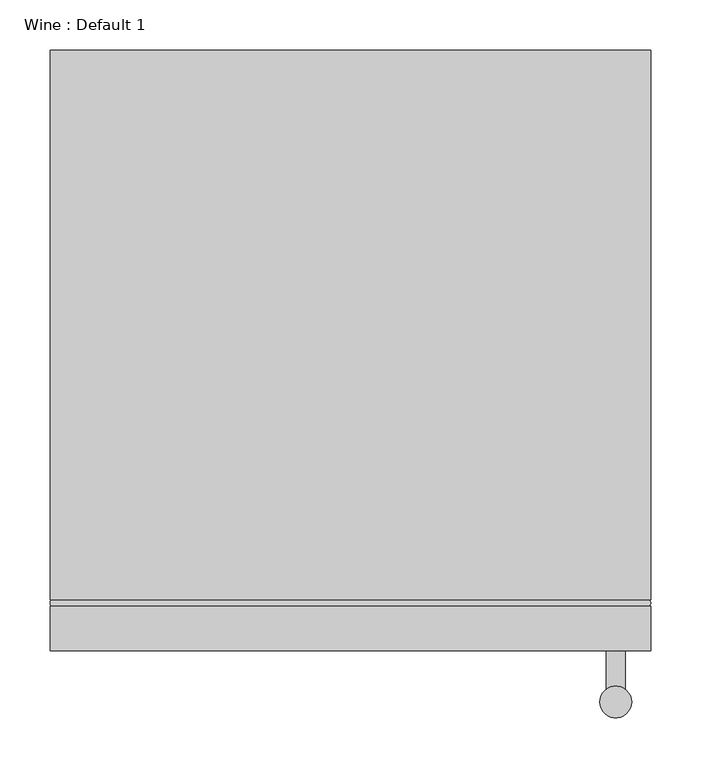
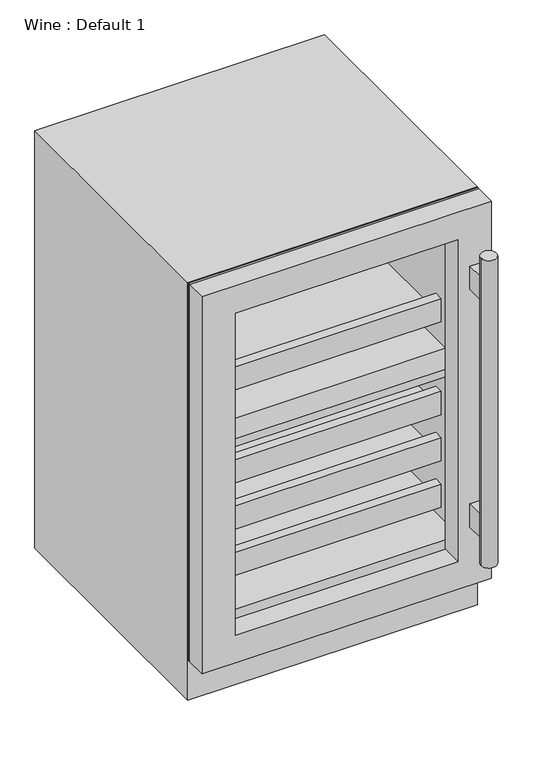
"""IFC4 building model written with IfcOpenShell, lengths in millimetres: proxy geometry, Wine : Default 1."""

import ifcopenshell
import ifcopenshell.guid

model = None  # the IFC model being written
_history = None  # IfcOwnerHistory: only IFC2X3 demands one
_inside = {}  # id of a spatial element -> (the spatial element, [elements in it])
_under = {}  # id of a project, library or spatial element -> (it, [spatial elements below it])
_declared = {}  # id of a project -> (the project, [libraries it declares])
_typed = {}  # id of a type object -> (the type object, [elements of that type])
_made_of = {}  # id of a material, layer set ... -> (it, [elements and type objects made of it])


def new_model(schema):
    """Start an empty IFC model of exactly this schema.

    Asked for "IFC4X3", IfcOpenShell would pick the latest addendum, in which some entities
    have other attributes; the version numbers below select the first issue.
    IFC2X3 requires an IfcOwnerHistory on every rooted entity: one is made here for all.
    """
    global model, _history
    if schema == "IFC4X3":
        model = ifcopenshell.file(schema_version=(4, 3, 0, 0))
    else:
        model = ifcopenshell.file(schema=schema)
    _inside.clear()
    _under.clear()
    _declared.clear()
    _typed.clear()
    _made_of.clear()
    _history = None
    if model.schema == "IFC2X3":
        org = make("IfcOrganization", Name="unknown")
        user = make(
            "IfcPersonAndOrganization",
            ThePerson=make("IfcPerson", FamilyName="unknown"),
            TheOrganization=org,
        )
        app = make(
            "IfcApplication",
            ApplicationDeveloper=org,
            Version="unknown",
            ApplicationFullName="unknown",
            ApplicationIdentifier="unknown",
        )
        _history = make(
            "IfcOwnerHistory",
            OwningUser=user,
            OwningApplication=app,
            ChangeAction="ADDED",
            CreationDate=0,
        )
    return model


def make(cls, **values):
    """One entity of the class cls with the attributes given. An attribute that is None is left unset."""
    return model.create_entity(
        cls, **{name: value for name, value in values.items() if value is not None}
    )


def rooted(cls, **values):
    """An entity with a GlobalId (a new one), such as an element, a storey or a relation."""
    return make(cls, GlobalId=ifcopenshell.guid.new(), OwnerHistory=_history, **values)


def si_unit(unit_type, name, prefix=None):
    """IfcSIUnit, for example si_unit("LENGTHUNIT", "METRE", prefix="MILLI")."""
    return make("IfcSIUnit", UnitType=unit_type, Prefix=prefix, Name=name)


def assignment(units):
    """IfcUnitAssignment: the units of a project."""
    return None if units is None else make("IfcUnitAssignment", Units=units)


def point(xyz):
    """IfcCartesianPoint."""
    return None if xyz is None else make("IfcCartesianPoint", Coordinates=xyz)


def direction(xyz):
    """IfcDirection."""
    return None if xyz is None else make("IfcDirection", DirectionRatios=xyz)


def frame(location, z_axis=None, x_axis=None):
    """IfcAxis2Placement3D, a coordinate frame: its origin and axes. An axis left out is left unset."""
    return make(
        "IfcAxis2Placement3D",
        Location=point(location),
        Axis=direction(z_axis),
        RefDirection=direction(x_axis),
    )


def origin():
    """The frame at (0, 0, 0) with its axes left unset."""
    return frame((0.0, 0.0, 0.0))


def place(relative_to, where):
    """IfcLocalPlacement: puts the frame where relative to a parent placement (None: the world)."""
    return make(
        "IfcLocalPlacement", PlacementRelTo=relative_to, RelativePlacement=where
    )


def context(
    kind, dimensions, precision=None, world=None, true_north=None, identifier=None
):
    """IfcGeometricRepresentationContext, for example the 3D "Model" context."""
    return make(
        "IfcGeometricRepresentationContext",
        ContextIdentifier=identifier,
        ContextType=kind,
        CoordinateSpaceDimension=dimensions,
        Precision=precision,
        WorldCoordinateSystem=world,
        TrueNorth=true_north,
    )


def project(units=None, contexts=None):
    """IfcProject with its units and contexts."""
    return rooted(
        "IfcProject",
        Name="project",
        RepresentationContexts=contexts,
        UnitsInContext=assignment(units),
    )


def spatial(cls, under=None, at=None, **own):
    """A site, building, storey or space (cls), placed at a placement, below another one or the project."""
    s = rooted(cls, ObjectPlacement=at, **own)
    if under is not None:
        _under.setdefault(under.id(), (under, []))[1].append(s)
    return s


def polyline(points):
    """IfcPolyline through the points."""
    return make("IfcPolyline", Points=[point(p) for p in points])


def circle_curve(where, radius):
    """IfcCircle in the frame where."""
    return make("IfcCircle", Position=where, Radius=radius)


def ellipse_curve(where, semi_axis1, semi_axis2):
    """IfcEllipse in the frame where."""
    return make(
        "IfcEllipse", Position=where, SemiAxis1=semi_axis1, SemiAxis2=semi_axis2
    )


def outline(outer, holes=None, kind="AREA"):
    """IfcArbitraryClosedProfileDef: a profile drawn as a closed curve; with holes, ...WithVoids."""
    if holes is None:
        return make("IfcArbitraryClosedProfileDef", ProfileType=kind, OuterCurve=outer)
    return make(
        "IfcArbitraryProfileDefWithVoids",
        ProfileType=kind,
        OuterCurve=outer,
        InnerCurves=holes,
    )


def extrude(swept, where, along, depth):
    """IfcExtrudedAreaSolid: the profile swept, set in the frame where, extruded along a direction by depth."""
    return make(
        "IfcExtrudedAreaSolid",
        SweptArea=swept,
        Position=where,
        ExtrudedDirection=direction(along),
        Depth=depth,
    )


def faces_of(points, faces, orient=None, outer=None):
    """IfcFace entities. A face is a list of loops; a loop is a list of indices into points, from 0.

    orient and outer hold one flag for each loop. By default every Orientation is true, the
    first loop of a face is its IfcFaceOuterBound and the others are IfcFaceBound.
    """
    made = []
    for i, loops in enumerate(faces):
        bounds = []
        for j, loop in enumerate(loops):
            is_outer = j == 0 if outer is None else outer[i][j]
            bounds.append(
                make(
                    "IfcFaceOuterBound" if is_outer else "IfcFaceBound",
                    Bound=make("IfcPolyLoop", Polygon=[points[k] for k in loop]),
                    Orientation=True if orient is None else orient[i][j],
                )
            )
        made.append(make("IfcFace", Bounds=bounds))
    return made


def faceted_brep(points, faces, orient=None, outer=None, voids=None):
    """IfcFacetedBrep: a solid bounded by flat faces; with voids (closed shells), ...WithVoids."""
    shared = [point(p) for p in points]
    hull = make("IfcClosedShell", CfsFaces=faces_of(shared, faces, orient, outer))
    if voids is None:
        return make("IfcFacetedBrep", Outer=hull)
    return make(
        "IfcFacetedBrepWithVoids",
        Outer=hull,
        Voids=[
            make(cls, CfsFaces=faces_of(shared, fs, o, b)) for cls, fs, o, b in voids
        ],
    )


def shape(context_of_items, identifier, shape_type, items):
    """IfcShapeRepresentation: the items that make up one representation, for example the "Body"."""
    return make(
        "IfcShapeRepresentation",
        ContextOfItems=context_of_items,
        RepresentationIdentifier=identifier,
        RepresentationType=shape_type,
        Items=items,
    )


def source(mapping_origin, context_of_items, identifier, shape_type, items):
    """IfcRepresentationMap: a shape defined once, which mapped items show again and again."""
    return make(
        "IfcRepresentationMap",
        MappingOrigin=mapping_origin,
        MappedRepresentation=shape(context_of_items, identifier, shape_type, items),
    )


def transform(
    local_origin,
    x_axis=None,
    y_axis=None,
    z_axis=None,
    scale=None,
    scale2=None,
    scale3=None,
    uniform=True,
):
    """IfcCartesianTransformationOperator3D, or its non-uniform kind. x_axis, y_axis, z_axis: its Axis1, 2, 3."""
    if uniform:
        return make(
            "IfcCartesianTransformationOperator3D",
            Axis1=direction(x_axis),
            Axis2=direction(y_axis),
            LocalOrigin=point(local_origin),
            Scale=scale,
            Axis3=direction(z_axis),
        )
    return make(
        "IfcCartesianTransformationOperator3DnonUniform",
        Axis1=direction(x_axis),
        Axis2=direction(y_axis),
        LocalOrigin=point(local_origin),
        Scale=scale,
        Axis3=direction(z_axis),
        Scale2=scale2,
        Scale3=scale3,
    )


def mapped(mapping_source, mapping_target):
    """IfcMappedItem: shows the shape of a source again, moved by a transform."""
    return make(
        "IfcMappedItem", MappingSource=mapping_source, MappingTarget=mapping_target
    )


def made_of(thing, what):
    """Note that an element or type object is made of a material, layer set ...; save() writes the relation."""
    if what is not None:
        _made_of.setdefault(what.id(), (what, []))[1].append(thing)
    return thing


def element(
    cls,
    number,
    at=None,
    inside=None,
    cuts=None,
    type_object=None,
    material=None,
    context=None,
    identifier="Body",
    shape_type=None,
    held_by="IfcProductDefinitionShape",
    body=None,
    shapes=None,
    **own,
):
    """One element of the class cls, such as IfcWall. Its Tag is "e" and its number.

    at: its placement. inside: the storey or other place that contains it. cuts: it is an
    opening in that element (IfcRelVoidsElement). A single representation is given by context,
    identifier, shape_type and body (its items); several are given by shapes. held_by: the class
    of the entity that holds the representations. save() writes the other relations.
    """
    e = rooted(cls, Tag="e%d" % number, ObjectPlacement=at, **own)
    if body is not None:
        shapes = [shape(context, identifier, shape_type, body)]
    if shapes is not None:
        e.Representation = make(held_by, Representations=shapes)
    if inside is not None:
        _inside.setdefault(inside.id(), (inside, []))[1].append(e)
    if cuts is not None:
        rooted(
            "IfcRelVoidsElement", RelatingBuildingElement=cuts, RelatedOpeningElement=e
        )
    if type_object is not None:
        _typed.setdefault(type_object.id(), (type_object, []))[1].append(e)
    return made_of(e, material)


def aggregate(whole, parts):
    """IfcRelAggregates: a whole, such as a stair, and the parts it consists of."""
    return rooted("IfcRelAggregates", RelatingObject=whole, RelatedObjects=parts)


def save(model, path):
    """Write the relations noted so far, then the file.

    IfcRelAggregates (storeys below a building ...), IfcRelContainedInSpatialStructure (elements
    in a storey), IfcRelDefinesByType, IfcRelAssociatesMaterial and IfcRelDeclares: one each for
    every whole, place, type object, material and project.
    """
    for whole, parts in _under.values():
        aggregate(whole, parts)
    for where, things in _inside.values():
        rooted(
            "IfcRelContainedInSpatialStructure",
            RelatedElements=things,
            RelatingStructure=where,
        )
    for kind, things in _typed.values():
        rooted("IfcRelDefinesByType", RelatedObjects=things, RelatingType=kind)
    for what, things in _made_of.values():
        rooted("IfcRelAssociatesMaterial", RelatedObjects=things, RelatingMaterial=what)
    for by, libraries in _declared.values():
        rooted("IfcRelDeclares", RelatingContext=by, RelatedDefinitions=libraries)
    model.write(path)


def plane_surface(at):
    """IfcPlane: the flat surface through the origin of the frame at, square to its z axis."""
    return make("IfcPlane", Position=at)


def cylinder_surface(at, radius):
    """IfcCylindricalSurface: all points at the distance radius from the z axis of the frame at."""
    return make("IfcCylindricalSurface", Position=at, Radius=radius)


def advanced_brep(points, edges, surfaces, faces):
    """IfcAdvancedBrep: a solid bounded by faces that lie on surfaces and meet in shared edges.

    An edge is (start, end): straight between two places in points (the first is 0);
    or (start, end, curve); or (start, end, curve, False) where it runs against its curve.
    A face is (place in surfaces, loops), or (place, loops, False) where it looks against
    its surface's normal. A loop lists edges by number (the first is 1), with a minus sign
    where the edge is run from its end to its start. The first loop is the outer one.
    """
    corners = [point(p) for p in points]
    vertices = [make("IfcVertexPoint", VertexGeometry=c) for c in corners]
    made = []
    for start, end, *more in edges:
        made.append(
            make(
                "IfcEdgeCurve",
                EdgeStart=vertices[start],
                EdgeEnd=vertices[end],
                EdgeGeometry=more[0] if more else make("IfcPolyline", Points=[corners[start], corners[end]]),
                SameSense=more[1] if len(more) > 1 else True,
            )
        )
    hull = []
    for where, loops, *sense in faces:
        bounds = []
        for j, loop in enumerate(loops):
            ring = [make("IfcOrientedEdge", EdgeElement=made[abs(k) - 1], Orientation=k > 0) for k in loop]
            bounds.append(
                make(
                    "IfcFaceOuterBound" if j == 0 else "IfcFaceBound",
                    Bound=make("IfcEdgeLoop", EdgeList=ring),
                    Orientation=True,
                )
            )
        hull.append(make("IfcAdvancedFace", Bounds=bounds, FaceSurface=surfaces[where], SameSense=sense[0] if sense else True))
    return make("IfcAdvancedBrep", Outer=make("IfcClosedShell", CfsFaces=hull))


def wine_default_1_0e301ea7(model_context):
    return source(origin(), model_context, "Body", "SolidModel", [
        advanced_brep(
        [(-296.825, -555.55, 911.225), (-296.825, -549.2, 911.225), (-296.825, -549.2, 92.075), (-296.825, -555.55, 92.075), (-293.65, -549.2, 908.05), (-293.65, -555.55, 908.05), (-293.65, -555.55, 95.25), (-293.65, -549.2, 95.25), (296.825, -549.2, 92.075), (296.825, -555.55, 92.075), (293.65, -555.55, 95.25), (293.65, -549.2, 95.25), (296.825, -549.2, 911.225), (296.825, -555.55, 911.225), (293.65, -555.55, 908.05), (293.65, -549.2, 908.05)],
        [
            (0, 1, ellipse_curve(frame((-296.825, -552.375, 911.225), z_axis=(-0.7071067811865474, 0.0, -0.7071067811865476), x_axis=(-0.7071067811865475, 0.0, 0.7071067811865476)), 4.4901281, 3.175)),
            (1, 2),
            (2, 3, ellipse_curve(frame((-296.825, -552.375, 92.075), z_axis=(-0.7071067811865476, 0.0, 0.7071067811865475), x_axis=(0.7071067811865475, 0.0, 0.7071067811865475)), 4.4901281, 3.175)),
            (3, 0),
            (4, 5),
            (5, 6),
            (6, 7),
            (7, 4),
            (2, 8),
            (8, 9, ellipse_curve(frame((296.825, -552.375, 92.075), z_axis=(-0.7071067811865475, 0.0, -0.7071067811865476), x_axis=(-0.7071067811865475, 0.0, 0.7071067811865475)), 4.4901281, 3.175)),
            (9, 3),
            (6, 10),
            (10, 11),
            (11, 7),
            (8, 12),
            (12, 13, ellipse_curve(frame((296.825, -552.375, 911.225), z_axis=(0.7071067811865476, 0.0, -0.7071067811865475), x_axis=(-0.7071067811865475, 0.0, -0.7071067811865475)), 4.4901281, 3.175)),
            (13, 9),
            (10, 14),
            (14, 15),
            (15, 11),
            (1, 12),
            (15, 4),
            (0, 13),
            (5, 14),
        ],
        [
            cylinder_surface(frame((-296.825, -552.375, 914.4), z_axis=(0.0, 0.0, 1.0), x_axis=(0.0, -1.0, 0.0)), 3.175),
            plane_surface(frame((-293.65, -555.55, 908.05), z_axis=(1.0, 0.0, 0.0), x_axis=(0.0, 0.0, -1.0))),
            cylinder_surface(frame((-300.0, -552.375, 92.075), z_axis=(-1.0, 0.0, 0.0), x_axis=(0.0, -1.0, 0.0)), 3.175),
            plane_surface(frame((-293.65, -555.55, 95.25), z_axis=(0.0, 0.0, 1.0), x_axis=(1.0, 0.0, 0.0))),
            cylinder_surface(frame((296.825, -552.375, 88.9), z_axis=(0.0, 0.0, -1.0), x_axis=(0.0, -1.0, 0.0)), 3.175),
            plane_surface(frame((293.65, -555.55, 95.25), z_axis=(-1.0, 0.0, 0.0), x_axis=(0.0, 0.0, 1.0))),
            plane_surface(frame((293.65, -549.2, 908.05), z_axis=(0.0, 1.0, 0.0), x_axis=(-1.0, 0.0, 0.0))),
            cylinder_surface(frame((300.0, -552.375, 911.225), z_axis=(1.0, 0.0, 0.0), x_axis=(0.0, -1.0, 0.0)), 3.175),
            plane_surface(frame((296.825, -555.55, 911.225), z_axis=(0.0, -1.0, 0.0), x_axis=(-1.0, 0.0, 0.0))),
            plane_surface(frame((293.65, -555.55, 908.05), z_axis=(0.0, 0.0, -1.0), x_axis=(-1.0, 0.0, 0.0))),
        ],
        [
            (0, [[1, 2, 3, 4]]),
            (1, [[5, 6, 7, 8]]),
            (2, [[-3, 9, 10, 11]]),
            (3, [[-7, 12, 13, 14]]),
            (4, [[-10, 15, 16, 17]]),
            (5, [[-13, 18, 19, 20]]),
            (6, [[21, -15, -9, -2], [-14, -20, 22, -8]]),
            (7, [[-16, -21, -1, 23]]),
            (8, [[-11, -17, -23, -4], [24, -18, -12, -6]]),
            (9, [[-19, -24, -5, -22]]),
        ],
    ),
        advanced_brep(
        [(274.525, -600.0, 787.4), (274.525, -600.0, 736.6), (255.475, -600.0, 736.6), (255.475, -600.0, 787.4), (274.525, -600.0, 266.7), (274.525, -600.0, 215.9), (255.475, -600.0, 215.9), (255.475, -600.0, 266.7), (274.525, -638.4741958, 787.4), (274.525, -638.4741958, 736.6), (255.475, -638.4741958, 736.6), (255.475, -638.4741958, 787.4), (274.525, -638.4741958, 266.7), (274.525, -638.4741958, 215.9), (255.475, -638.4741958, 215.9), (255.475, -638.4741958, 266.7), (249.125, -651.1741958, 838.2), (280.875, -651.1741958, 838.2), (249.125, -651.1741958, 165.1), (280.875, -651.1741958, 165.1)],
        [
            (0, 1),
            (1, 2),
            (2, 3),
            (3, 0),
            (4, 5),
            (5, 6),
            (6, 7),
            (7, 4),
            (0, 8),
            (8, 9),
            (9, 1),
            (9, 10, circle_curve(frame((265.0, -651.1741958, 736.6), z_axis=(0.0, 0.0, 1.0), x_axis=(1.0, 0.0, 0.0)), 15.875)),
            (10, 2),
            (10, 11),
            (11, 3),
            (11, 8, circle_curve(frame((265.0, -651.1741958, 787.4), z_axis=(0.0, 0.0, -1.0), x_axis=(1.0, 0.0, 0.0)), 15.875)),
            (4, 12),
            (12, 13),
            (13, 5),
            (13, 14, circle_curve(frame((265.0, -651.1741958, 215.9), z_axis=(0.0, 0.0, 1.0), x_axis=(1.0, 0.0, 0.0)), 15.875)),
            (14, 6),
            (14, 15),
            (15, 7),
            (15, 12, circle_curve(frame((265.0, -651.1741958, 266.7), z_axis=(0.0, 0.0, -1.0), x_axis=(1.0, 0.0, 0.0)), 15.875)),
            (16, 17, circle_curve(frame((265.0, -651.1741958, 838.2), z_axis=(0.0, 0.0, 1.0), x_axis=(1.0, 0.0, 0.0)), 15.875)),
            (17, 16, circle_curve(frame((265.0, -651.1741958, 838.2), z_axis=(0.0, 0.0, 1.0), x_axis=(1.0, 0.0, 0.0)), 15.875)),
            (18, 19, circle_curve(frame((265.0, -651.1741958, 165.1), z_axis=(0.0, 0.0, -1.0), x_axis=(1.0, 0.0, 0.0)), 15.875)),
            (19, 18, circle_curve(frame((265.0, -651.1741958, 165.1), z_axis=(0.0, 0.0, -1.0), x_axis=(1.0, 0.0, 0.0)), 15.875)),
            (16, 18),
            (19, 17),
        ],
        [
            plane_surface(frame((274.525, -600.0, 787.4), z_axis=(0.0, 1.0, 0.0), x_axis=(0.0, 0.0, -1.0))),
            plane_surface(frame((274.525, -600.0, 787.4), z_axis=(1.0, 0.0, 0.0), x_axis=(0.0, -1.0, 0.0))),
            plane_surface(frame((274.525, -600.0, 736.6), z_axis=(0.0, 0.0, -1.0), x_axis=(0.0, -1.0, 0.0))),
            plane_surface(frame((255.475, -600.0, 736.6), z_axis=(-1.0, 0.0, 0.0), x_axis=(0.0, -1.0, 0.0))),
            plane_surface(frame((255.475, -600.0, 787.4), z_axis=(0.0, 0.0, 1.0), x_axis=(0.0, -1.0, 0.0))),
            plane_surface(frame((274.525, -600.0, 266.7), z_axis=(1.0, 0.0, 0.0), x_axis=(0.0, -1.0, 0.0))),
            plane_surface(frame((274.525, -600.0, 215.9), z_axis=(0.0, 0.0, -1.0), x_axis=(0.0, -1.0, 0.0))),
            plane_surface(frame((255.475, -600.0, 215.9), z_axis=(-1.0, 0.0, 0.0), x_axis=(0.0, -1.0, 0.0))),
            plane_surface(frame((255.475, -600.0, 266.7), z_axis=(0.0, 0.0, 1.0), x_axis=(0.0, -1.0, 0.0))),
            plane_surface(frame((280.875, -651.1741958, 838.2), z_axis=(0.0, 0.0, 1.0), x_axis=(0.0, 1.0, 0.0))),
            plane_surface(frame((280.875, -651.1741958, 165.1), z_axis=(0.0, 0.0, -1.0), x_axis=(0.0, -1.0, 0.0))),
            cylinder_surface(frame((265.0, -651.1741958, 165.1), z_axis=(0.0, 0.0, 1.0), x_axis=(1.0, 0.0, 0.0)), 15.875),
        ],
        [
            (0, [[1, 2, 3, 4]]),
            (0, [[5, 6, 7, 8]]),
            (1, [[-1, 9, 10, 11]]),
            (2, [[-2, -11, 12, 13]]),
            (3, [[-3, -13, 14, 15]]),
            (4, [[-4, -15, 16, -9]]),
            (5, [[-5, 17, 18, 19]]),
            (6, [[-6, -19, 20, 21]]),
            (7, [[-7, -21, 22, 23]]),
            (8, [[-8, -23, 24, -17]]),
            (9, [[25, 26]]),
            (10, [[27, 28]]),
            (11, [[-25, 29, -28, 30]]),
            (11, [[-26, -30, -27, -29], [-10, -16, -14, -12], [-18, -24, -22, -20]]),
        ],
    ),
        extrude(outline(polyline([(-530.15, 506.4125), (-530.15, 523.3165003), (-520.2168556, 560.3875), (-50.8, 560.3875), (-50.8, 506.4125), (-530.15, 506.4125)])), frame((-250.7875, 0.0, 0.0), z_axis=(1.0, 0.0, 0.0), x_axis=(0.0, 1.0, 0.0)), (0.0, 0.0, 1.0), 501.575),
        extrude(outline(polyline([(-504.75, 203.2), (-504.75, 254.0), (-485.7, 254.0), (-485.7, 215.9), (-50.8, 215.9), (-50.8, 203.2), (-504.75, 203.2)])), frame((-250.7875, 0.0, 0.0), z_axis=(1.0, 0.0, 0.0), x_axis=(0.0, 1.0, 0.0)), (0.0, 0.0, 1.0), 501.575),
        extrude(outline(polyline([(-504.75, 304.8), (-504.75, 355.6), (-485.7, 355.6), (-485.7, 317.5), (-50.8, 317.5), (-50.8, 304.8), (-504.75, 304.8)])), frame((-250.7875, 0.0, 0.0), z_axis=(1.0, 0.0, 0.0), x_axis=(0.0, 1.0, 0.0)), (0.0, 0.0, 1.0), 501.575),
        extrude(outline(polyline([(-504.75, 406.4), (-504.75, 457.2), (-485.7, 457.2), (-485.7, 419.1), (-50.8, 419.1), (-50.8, 406.4), (-504.75, 406.4)])), frame((-250.7875, 0.0, 0.0), z_axis=(1.0, 0.0, 0.0), x_axis=(0.0, 1.0, 0.0)), (0.0, 0.0, 1.0), 501.575),
        extrude(outline(polyline([(-504.75, 609.6), (-504.75, 660.4), (-485.7, 660.4), (-485.7, 622.3), (-50.8, 622.3), (-50.8, 609.6), (-504.75, 609.6)])), frame((-250.7875, 0.0, 0.0), z_axis=(1.0, 0.0, 0.0), x_axis=(0.0, 1.0, 0.0)), (0.0, 0.0, 1.0), 501.575),
        extrude(outline(polyline([(-504.75, 508.0), (-504.75, 558.8), (-485.7, 558.8), (-485.7, 520.7), (-50.8, 520.7), (-50.8, 508.0), (-504.75, 508.0)])), frame((-250.7875, 0.0, 0.0), z_axis=(1.0, 0.0, 0.0), x_axis=(0.0, 1.0, 0.0)), (0.0, 0.0, 1.0), 501.575),
        extrude(outline(polyline([(914.4, 300.0), (914.4, -300.0), (88.9, -300.0), (88.9, 300.0), (914.4, 300.0)]), holes=[polyline([(854.075, 230.15), (149.225, 230.15), (149.225, -230.15), (854.075, -230.15), (854.075, 230.15)])]), frame((0.0, -600.0, 0.0), z_axis=(0.0, 1.0, 0.0), x_axis=(0.0, 0.0, 1.0)), (0.0, 0.0, 1.0), 44.45),
        faceted_brep([(300.0, 0.0, 914.4), (-300.0, 0.0, 914.4), (-300.0, -549.2, 914.4), (300.0, -549.2, 914.4), (300.0, 0.0, 0.0), (300.0, -549.2, 0.0), (-300.0, -549.2, 0.0), (-300.0, 0.0, 0.0), (261.9, -549.2, 890.2013747), (261.9, -549.2, 165.1), (-261.9, -549.2, 165.1), (-261.9, -549.2, 890.2013747), (261.9, -50.8, 890.2013747), (-261.9, -50.8, 890.2013747), (-261.9, -50.8, 165.1), (261.9, -50.8, 165.1)], [[[0, 1, 2, 3]], [[4, 5, 6, 7]], [[1, 0, 4, 7]], [[2, 1, 7, 6]], [[3, 2, 6, 5], [8, 9, 10, 11]], [[0, 3, 5, 4]], [[12, 13, 14, 15]], [[12, 15, 9, 8]], [[14, 13, 11, 10]], [[13, 12, 8, 11]], [[15, 14, 10, 9]]]),
    ])


if __name__ == "__main__":
    model = new_model("IFC4")
    model_context = context("Model", 3, world=origin())
    ifc_project = project(units=[si_unit("LENGTHUNIT", "METRE", prefix="MILLI")], contexts=[model_context])
    site = spatial("IfcSite", under=ifc_project)
    building = spatial("IfcBuilding", under=site)
    placement = place(None, origin())
    wine_default_1_shape = wine_default_1_0e301ea7(model_context)
    element("IfcBuildingElementProxy", 1, Name="Wine : Default 1", ObjectType="Wine : Default 1", at=placement, inside=building, context=model_context, shape_type="MappedRepresentation", body=[
        mapped(wine_default_1_shape, transform((0.0, 0.0, 0.0), x_axis=(1.0, 0.0, 0.0), y_axis=(0.0, 1.0, 0.0), z_axis=(0.0, 0.0, 1.0))),
    ])
    save(model, "model.ifc")
